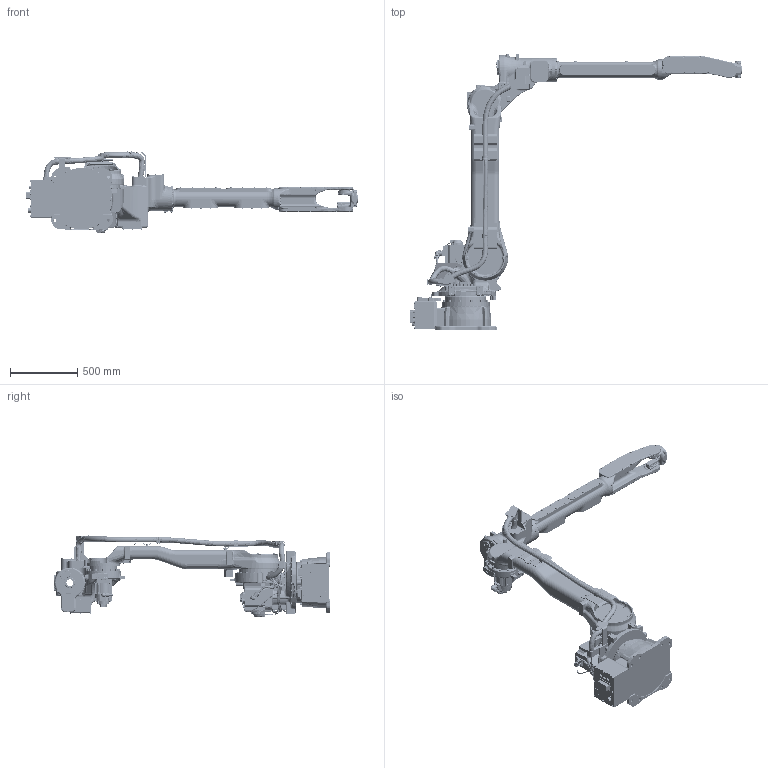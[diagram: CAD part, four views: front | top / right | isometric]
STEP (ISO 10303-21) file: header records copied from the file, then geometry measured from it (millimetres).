
FILE_DESCRIPTION((''),'2;1');
FILE_NAME('GP20HL_ASSY_ASM','2019-04-10T',('ip-naka'),('YASKAWA ELECTRIC CORPORATION'),'PRO/ENGINEER BY PARAMETRIC TECHNOLOGY CORPORATION, 2015030','PRO/ENGINEER BY PARAMETRIC TECHNOLOGY CORPORATION, 2015030','');
FILE_SCHEMA(('CONFIG_CONTROL_DESIGN'));
Products named in the file (8): BASE_GP20HL; S_AXIS_GP20HL; L_AXIS_GP20HL; U_AXIS_GP20HL; R_AXIS_GP20HL; B_AXIS_GP20HL; T_AXIS_GP20HL; GP20HL_ASSY_ASM
Assembly tree (7 placements, depth 2):
  GP20HL_ASSY_ASM
    BASE_GP20HL
    S_AXIS_GP20HL
    L_AXIS_GP20HL
    U_AXIS_GP20HL
    R_AXIS_GP20HL
    B_AXIS_GP20HL
    T_AXIS_GP20HL
Bounding box: 2471.85 x 2060.74 x 604.98 mm (x, y, z)
Volume: 168439381.4 mm3; surface area: 6510201.4 mm2
Topology: 7 solids, 47 shells, 10519 faces, 26840 edges, 16825 vertices
Faces by surface type: cylinder 3829, plane 3769, bspline 1309, torus 798, cone 649, sphere 109, extrusion 48, revolution 8
Full cylindrical faces by diameter (mm): 0.014 x2
Entity records: 460058 total; most frequent: CARTESIAN_POINT 210077, ORIENTED_EDGE 53448, DIRECTION 51767, EDGE_CURVE 26752, AXIS2_PLACEMENT_3D 20286, VERTEX_POINT 16825, EDGE_LOOP 11431, VECTOR 11187
